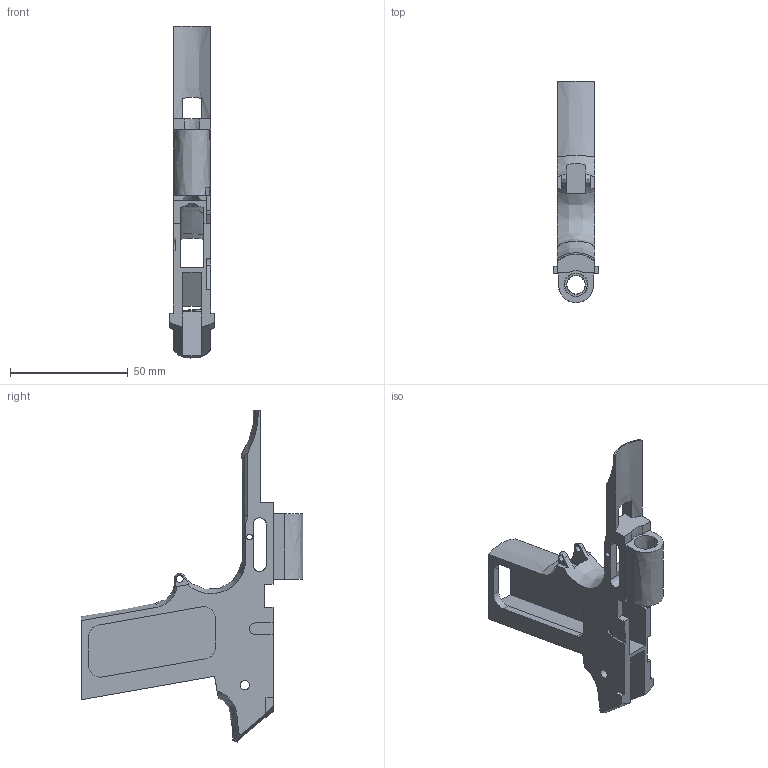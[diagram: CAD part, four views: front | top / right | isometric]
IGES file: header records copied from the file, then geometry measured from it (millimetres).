
Start section:  PTC IGES file: C:\Documents and Settings\audibk\personal\guns\walther\W alther_PPK\iges\mainbody01.igs
Global section: file name: C:\Documents and Settings\audibk\personal\guns\walther\Walther_PPK\iges\mainbody01.igs; native system: Pro/ENGINEER by Parametric Technology Corporation; preprocessor: 2002180; author: audibk; organization: Unknown; date: 030409.105320; units: millimetre
Bounding box: 18.8 x 94 x 141.11 mm (x, y, z)
Volume: 32210.7 mm3; surface area: 22800.2 mm2
Topology: 1 solids, 1 shells, 147 faces, 463 edges, 307 vertices
Faces by surface type: bspline 147
